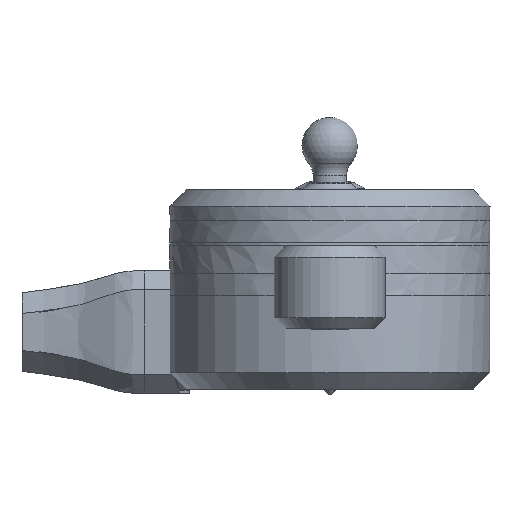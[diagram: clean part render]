
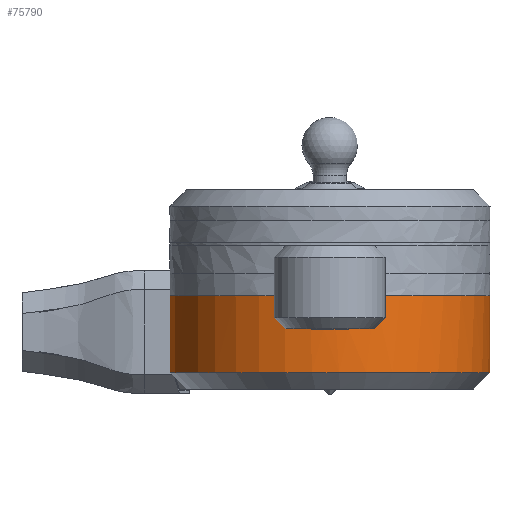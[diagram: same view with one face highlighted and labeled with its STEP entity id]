
A CAD part, left-side view. The second image highlights one B-rep face of the part: STEP entity #75790.
In plain terms, the highlighted cylindrical face has radius 57.5 mm (diameter 115 mm), a partial arc.
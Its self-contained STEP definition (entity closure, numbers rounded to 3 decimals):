
#4618=CYLINDRICAL_SURFACE('',#78892,57.5);
#8429=FACE_OUTER_BOUND('',#13071,.T.);
#13071=EDGE_LOOP('',(#67091,#67092,#67093,#67094,#67095,#67096,#67097,#67098));
#22694=LINE('',#217090,#26476);
#22699=LINE('',#217107,#26481);
#22706=LINE('',#217129,#26488);
#22707=LINE('',#217132,#26489);
#26476=VECTOR('',#86363,10.);
#26481=VECTOR('',#86378,10.);
#26488=VECTOR('',#86403,10.);
#26489=VECTOR('',#86406,10.);
#29066=CIRCLE('',#78882,57.5);
#29071=CIRCLE('',#78893,57.5);
#29072=CIRCLE('',#78894,57.5);
#29073=CIRCLE('',#78895,57.5);
#35117=VERTEX_POINT('',#217086);
#35118=VERTEX_POINT('',#217088);
#35119=VERTEX_POINT('',#217092);
#35124=VERTEX_POINT('',#217104);
#35129=VERTEX_POINT('',#217124);
#35130=VERTEX_POINT('',#217126);
#35131=VERTEX_POINT('',#217128);
#35132=VERTEX_POINT('',#217130);
#46039=EDGE_CURVE('',#35117,#35118,#22694,.T.);
#46040=EDGE_CURVE('',#35118,#35119,#29066,.T.);
#46047=EDGE_CURVE('',#35119,#35124,#22699,.T.);
#46056=EDGE_CURVE('',#35117,#35129,#29071,.T.);
#46057=EDGE_CURVE('',#35130,#35124,#29072,.T.);
#46058=EDGE_CURVE('',#35130,#35131,#22706,.T.);
#46059=EDGE_CURVE('',#35132,#35131,#29073,.T.);
#46060=EDGE_CURVE('',#35129,#35132,#22707,.T.);
#67091=ORIENTED_EDGE('',*,*,#46056,.F.);
#67092=ORIENTED_EDGE('',*,*,#46039,.T.);
#67093=ORIENTED_EDGE('',*,*,#46040,.T.);
#67094=ORIENTED_EDGE('',*,*,#46047,.T.);
#67095=ORIENTED_EDGE('',*,*,#46057,.F.);
#67096=ORIENTED_EDGE('',*,*,#46058,.T.);
#67097=ORIENTED_EDGE('',*,*,#46059,.F.);
#67098=ORIENTED_EDGE('',*,*,#46060,.F.);
#75790=ADVANCED_FACE('',(#8429),#4618,.T.);
#78882=AXIS2_PLACEMENT_3D('',#217093,#86366,#86367);
#78892=AXIS2_PLACEMENT_3D('',#217123,#86397,#86398);
#78893=AXIS2_PLACEMENT_3D('',#217125,#86399,#86400);
#78894=AXIS2_PLACEMENT_3D('',#217127,#86401,#86402);
#78895=AXIS2_PLACEMENT_3D('',#217131,#86404,#86405);
#86363=DIRECTION('',(0.,0.,-1.));
#86366=DIRECTION('center_axis',(0.,0.,-1.));
#86367=DIRECTION('ref_axis',(1.,0.,0.));
#86378=DIRECTION('',(0.,0.,1.));
#86397=DIRECTION('center_axis',(0.,0.,-1.));
#86398=DIRECTION('ref_axis',(-0.791,-0.611,0.));
#86399=DIRECTION('center_axis',(0.,0.,1.));
#86400=DIRECTION('ref_axis',(1.,0.,0.));
#86401=DIRECTION('center_axis',(0.,0.,1.));
#86402=DIRECTION('ref_axis',(1.,0.,0.));
#86403=DIRECTION('',(0.,0.,-1.));
#86404=DIRECTION('center_axis',(0.,0.,-1.));
#86405=DIRECTION('ref_axis',(-1.,0.,0.));
#86406=DIRECTION('',(0.,0.,-1.));
#217086=CARTESIAN_POINT('',(-57.106,-6.718,0.));
#217088=CARTESIAN_POINT('',(-57.106,-6.718,-12.));
#217090=CARTESIAN_POINT('',(-57.106,-6.718,0.));
#217092=CARTESIAN_POINT('',(-57.106,6.718,-12.));
#217093=CARTESIAN_POINT('Origin',(0.,0.,-12.));
#217104=CARTESIAN_POINT('',(-57.106,6.718,0.));
#217107=CARTESIAN_POINT('',(-57.106,6.718,0.));
#217123=CARTESIAN_POINT('Origin',(0.,0.,0.));
#217124=CARTESIAN_POINT('',(57.5,0.,0.));
#217125=CARTESIAN_POINT('Origin',(0.,0.,0.));
#217126=CARTESIAN_POINT('',(14.5,55.642,0.));
#217127=CARTESIAN_POINT('Origin',(0.,0.,0.));
#217128=CARTESIAN_POINT('',(14.5,55.642,-27.6));
#217129=CARTESIAN_POINT('',(14.5,55.642,0.));
#217130=CARTESIAN_POINT('',(57.5,0.,-27.6));
#217131=CARTESIAN_POINT('Origin',(0.,0.,-27.6));
#217132=CARTESIAN_POINT('',(57.5,0.,0.));
